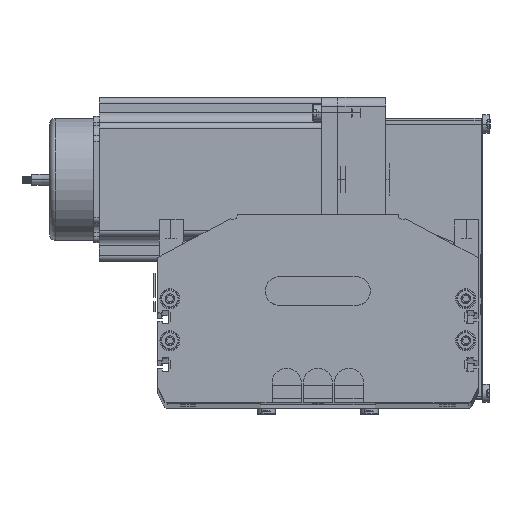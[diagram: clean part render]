
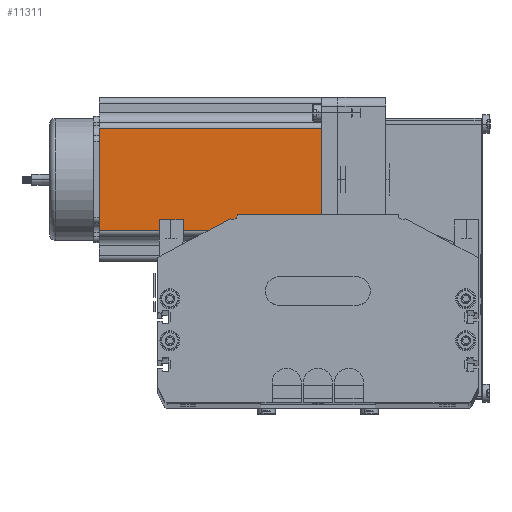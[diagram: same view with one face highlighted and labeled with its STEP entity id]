
A CAD part, top view. The second image highlights one B-rep face of the part: STEP entity #11311.
In plain terms, the highlighted planar face has unit normal (0, 0, 1) as drawn and (0, -1, 0) by its records, which use the part's own axes.
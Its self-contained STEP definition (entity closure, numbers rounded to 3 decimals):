
#11311 = ADVANCED_FACE ( 'NONE', ( #66717 ), #66716, .F. ) ;
#11341 = EDGE_CURVE ( 'NONE', #11456, #11455, #66847, .T. ) ;
#11359 = ORIENTED_EDGE ( 'NONE', *, *, #11341, .T. ) ;
#11363 = VERTEX_POINT ( 'NONE', #66806 ) ;
#11364 = EDGE_CURVE ( 'NONE', #11363, #11455, #67032, .T. ) ;
#11428 = EDGE_LOOP ( 'NONE', ( #11454, #11359, #11828, #11778 ) ) ;
#11430 = VERTEX_POINT ( 'NONE', #66875 ) ;
#11451 = EDGE_CURVE ( 'NONE', #11430, #11456, #66833, .T. ) ;
#11454 = ORIENTED_EDGE ( 'NONE', *, *, #11451, .T. ) ;
#11455 = VERTEX_POINT ( 'NONE', #66914 ) ;
#11456 = VERTEX_POINT ( 'NONE', #66883 ) ;
#11778 = ORIENTED_EDGE ( 'NONE', *, *, #11829, .T. ) ;
#11828 = ORIENTED_EDGE ( 'NONE', *, *, #11364, .F. ) ;
#11829 = EDGE_CURVE ( 'NONE', #11363, #11430, #67791, .T. ) ;
#65937 = DIRECTION ( 'NONE',  ( 0., 0., 1. ) ) ;
#66678 = AXIS2_PLACEMENT_3D ( 'NONE', #66728, #66720, #65937 ) ;
#66716 = PLANE ( 'NONE',  #66678 ) ;
#66717 = FACE_OUTER_BOUND ( 'NONE', #11428, .T. ) ;
#66720 = DIRECTION ( 'NONE',  ( 0., 1., 0. ) ) ;
#66728 = CARTESIAN_POINT ( 'NONE',  ( 0., 0., 116.5 ) ) ;
#66806 = CARTESIAN_POINT ( 'NONE',  ( 16.16, 0., 116.5 ) ) ;
#66824 = DIRECTION ( 'NONE',  ( 1., 0., 0. ) ) ;
#66832 = CARTESIAN_POINT ( 'NONE',  ( 0., 0., 0. ) ) ;
#66833 = LINE ( 'NONE', #66832, #67005 ) ;
#66847 = LINE ( 'NONE', #66909, #66929 ) ;
#66875 = CARTESIAN_POINT ( 'NONE',  ( 16.16, 0., 0. ) ) ;
#66883 = CARTESIAN_POINT ( 'NONE',  ( 69.74, 0., 0. ) ) ;
#66907 = DIRECTION ( 'NONE',  ( 0., 0., 1. ) ) ;
#66909 = CARTESIAN_POINT ( 'NONE',  ( 69.74, 0., 116.5 ) ) ;
#66914 = CARTESIAN_POINT ( 'NONE',  ( 69.74, 0., 116.5 ) ) ;
#66929 = VECTOR ( 'NONE', #66907, 1000. ) ;
#66950 = VECTOR ( 'NONE', #66824, 1000. ) ;
#67004 = DIRECTION ( 'NONE',  ( 1., 0., 0. ) ) ;
#67005 = VECTOR ( 'NONE', #67004, 1000. ) ;
#67030 = CARTESIAN_POINT ( 'NONE',  ( 0., 0., 116.5 ) ) ;
#67032 = LINE ( 'NONE', #67030, #66950 ) ;
#67766 = DIRECTION ( 'NONE',  ( 0., 0., -1. ) ) ;
#67767 = VECTOR ( 'NONE', #67766, 1000. ) ;
#67769 = CARTESIAN_POINT ( 'NONE',  ( 16.16, 0., 116.5 ) ) ;
#67791 = LINE ( 'NONE', #67769, #67767 ) ;
